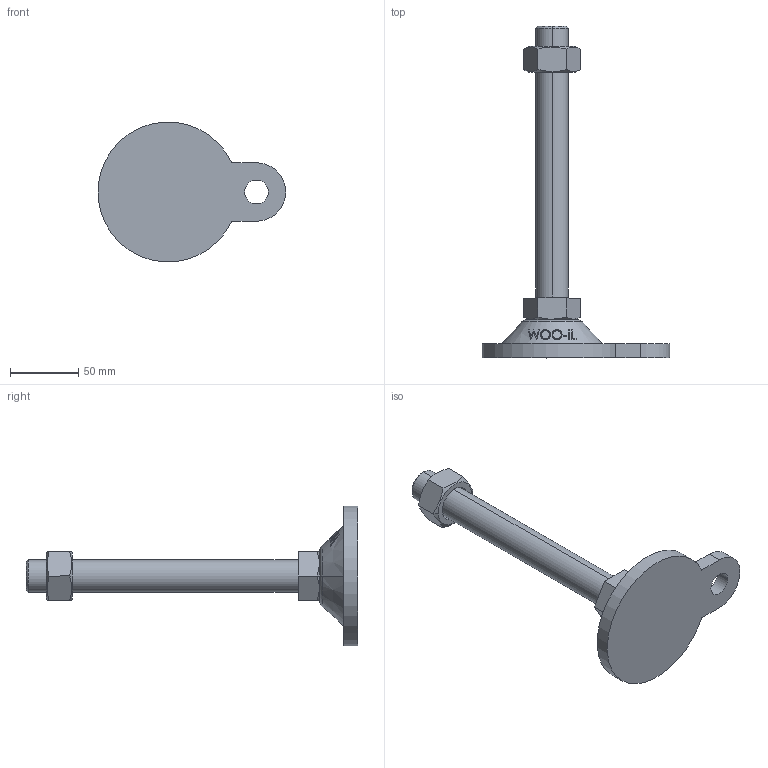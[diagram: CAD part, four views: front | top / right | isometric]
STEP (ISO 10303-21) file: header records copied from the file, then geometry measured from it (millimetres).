
FILE_DESCRIPTION (( 'STEP AP214' ), '1' );
FILE_NAME ('ARB103-M24-200.step', '2021-03-25T00:42:16', ( '' ), ( '' ), 'SwSTEP 2.0', 'SolidWorks 2019', '' );
FILE_SCHEMA (( 'AUTOMOTIVE_DESIGN' ));
Length unit declared in the file: millimetre
Products named in the file (2): ARB103-M24-200
Bounding box: 137.8 x 244 x 102.64 mm (x, y, z)
Volume: 267080.8 mm3; surface area: 48950.6 mm2
Topology: 3 solids, 3 shells, 97 faces, 229 edges, 148 vertices
Faces by surface type: plane 49, cone 22, bspline 16, cylinder 8, torus 2
Entity records: 4448 total; most frequent: CARTESIAN_POINT 2286, ORIENTED_EDGE 458, DIRECTION 375, EDGE_CURVE 229, VERTEX_POINT 148, AXIS2_PLACEMENT_3D 143, EDGE_LOOP 111, FACE_OUTER_BOUND 97
